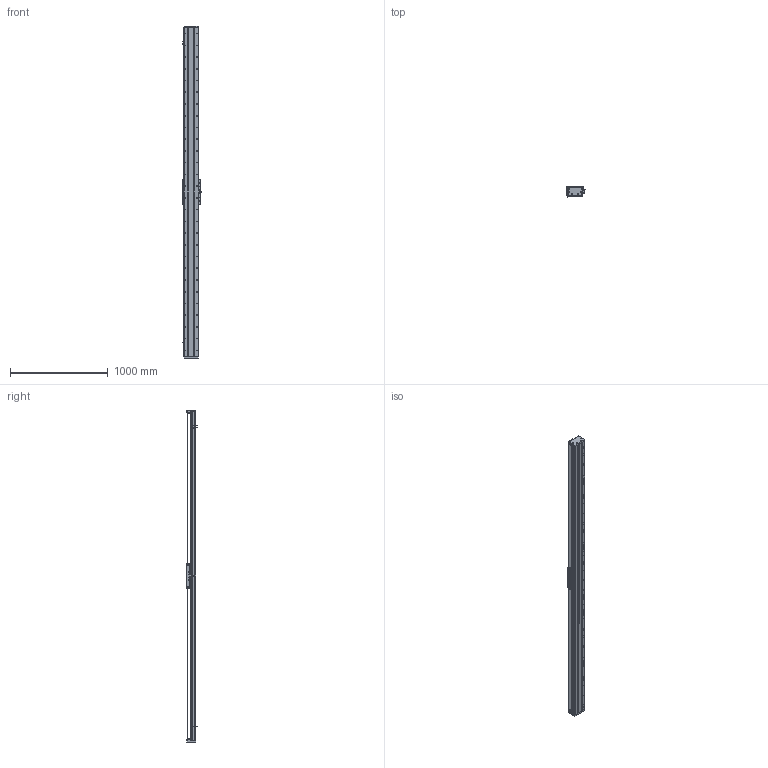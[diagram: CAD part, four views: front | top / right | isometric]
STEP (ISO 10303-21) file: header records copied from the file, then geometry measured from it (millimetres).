
FILE_DESCRIPTION (( 'STEP AP203' ), '1' );
FILE_NAME ('DA-C145-C3-T3060-C010-0.2 眻盄萇儂.STEP', '2025-08-14T01:36:48', ( '' ), ( '' ), 'SwSTEP 2.0', 'SolidWorks 2019', '' );
FILE_SCHEMA (( 'CONFIG_CONTROL_DESIGN' ));
Length unit declared in the file: millimetre
Products named in the file (32): 复件 DA95-MFP-01 密封片^CU145-W 滚珠滑台; 葩璃 XD-U-02L 棠掑喜^DA-C145-C3-T-C010-0.2; TAY01-M8; IU-CU145-L 菁釱絳寢; 复件 内六角平端紧定螺钉 GB.T77-2000 M5×10^CU145-W 滚珠滑台; 复件 DA145-DG 钢带端盖^复件 CU145 钢带组件_DA-C145-C3-T-C010-0.2; DA-C145-C3-T3060-C010-0.2 眻盄萇儂; 葩璃 CU145 詩湍郪璃^DA-C145-C3-T-C010-0.2; 复件 DA145-C3-DK-00 挡块^CU145-W 滚珠滑台; 复件 半圆头内六角螺钉 M3×6^CU145-W 滚珠滑台; 复件 DA145-GYP-00 光电感应片^DA-C145-C3-T-C010-0.2; 复件 DA145-C3-YB-B-00 压板B^CU145-W 滚珠滑台; 复件 纯铜油杯 6x6mm^CU145-W 滚珠滑台; 复件 DA145-C3-YB-A-00 压板A^CU145-W 滚珠滑台; 复件 DA95-HK-GT-00 滑块钢轨^CU145-W-00 一体化滑动台板; 复件 DA146 钢带垫块^复件 CU145 钢带组件_DA-C145-C3-T-C010-0.2; 复件 DA95-DB-00  挡板^CU145-W 滚珠滑台; 复件 DA145 钢带^复件 CU145 钢带组件_DA-C145-C3-T-C010-0.2; 葩璃 PM-T45^DA-C145-C3-T-C010-0.2; 葩璃 CKM03-W060-C1C2-TP-0.2^DA-C145-C3-T-C010-0.2; CU145-W 幗紩賑怢; 葩璃 DA145-C3-DP-B-00 菜えB^CU145-W 幗紩賑怢; 葩璃 DMA-010-0.2 黍杅芛^DA-C145-C3-T-C010-0.2; 复件 DA146 钢带拉块^复件 CU145 钢带组件_DA-C145-C3-T-C010-0.2; 葩璃 CKMA01-W060-TRL^DA-C145-C3-T-C010-0.2; 66245-CU145-HT-W-00 賑雄怢啣(3D芞祧)(00); 葩璃 DA95-GT-T-00^IU-CU145-L 菁釱絳寢; 葩璃 DA95-HXJ-00 遣喳砎蝶^DA-C145-C3-T-C010-0.2; 葩璃 DA145-C3-DP-A-00 菜えA^CU145-W 幗紩賑怢; IU-CU145-L-00 菁釱(L3360); CU145-W-00 珨极趙賑雄怢啣; 葩璃 鞠褒情蹟譫 M3^DA-C145-C3-T-C010-0.2
Assembly tree (103 placements, depth 4):
  DA-C145-C3-T3060-C010-0.2 眻盄萇儂
    IU-CU145-L 菁釱絳寢
      IU-CU145-L-00 菁釱(L3360)
      葩璃 DA95-GT-T-00^IU-CU145-L 菁釱絳寢  x4
    葩璃 CU145 詩湍郪璃^DA-C145-C3-T-C010-0.2
      复件 DA145-DG 钢带端盖^复件 CU145 钢带组件_DA-C145-C3-T-C010-0.2  x2
      复件 DA146 钢带拉块^复件 CU145 钢带组件_DA-C145-C3-T-C010-0.2  x2
      复件 DA146 钢带垫块^复件 CU145 钢带组件_DA-C145-C3-T-C010-0.2  x2
      复件 DA145 钢带^复件 CU145 钢带组件_DA-C145-C3-T-C010-0.2
    CU145-W 幗紩賑怢
      CU145-W-00 珨极趙賑雄怢啣
        66245-CU145-HT-W-00 賑雄怢啣(3D芞祧)(00)
        复件 DA95-HK-GT-00 滑块钢轨^CU145-W-00 一体化滑动台板  x8
      复件 DA95-MFP-01 密封片^CU145-W 滚珠滑台  x8
      复件 DA95-DB-00  挡板^CU145-W 滚珠滑台  x8
      复件 内六角平端紧定螺钉 GB.T77-2000 M5×10^CU145-W 滚珠滑台  x4
      复件 纯铜油杯 6x6mm^CU145-W 滚珠滑台  x4
      复件 半圆头内六角螺钉 M3×6^CU145-W 滚珠滑台  x16
      复件 DA145-C3-DK-00 挡块^CU145-W 滚珠滑台  x4
      葩璃 DA145-C3-DP-B-00 菜えB^CU145-W 幗紩賑怢  x2
      复件 DA145-C3-YB-B-00 压板B^CU145-W 滚珠滑台  x2
      葩璃 DA145-C3-DP-A-00 菜えA^CU145-W 幗紩賑怢  x3
      复件 DA145-C3-YB-A-00 压板A^CU145-W 滚珠滑台  x3
      TAY01-M8  x4
    葩璃 CKMA01-W060-TRL^DA-C145-C3-T-C010-0.2
    葩璃 PM-T45^DA-C145-C3-T-C010-0.2  x3
    葩璃 XD-U-02L 棠掑喜^DA-C145-C3-T-C010-0.2
    葩璃 DA95-HXJ-00 遣喳砎蝶^DA-C145-C3-T-C010-0.2  x4
    复件 DA145-GYP-00 光电感应片^DA-C145-C3-T-C010-0.2
    葩璃 DMA-010-0.2 黍杅芛^DA-C145-C3-T-C010-0.2
    葩璃 CKM03-W060-C1C2-TP-0.2^DA-C145-C3-T-C010-0.2
    葩璃 鞠褒情蹟譫 M3^DA-C145-C3-T-C010-0.2  x8
Bounding box: 203.5 x 108.45 x 3396 mm (x, y, z)
Volume: 15360766 mm3; surface area: 5212460.3 mm2
Topology: 99 solids, 131 shells, 4951 faces, 14528 edges, 9150 vertices
Faces by surface type: cylinder 2575, plane 1608, cone 690, torus 74, sphere 4
Entity records: 145958 total; most frequent: CARTESIAN_POINT 45618, ORIENTED_EDGE 20576, DIRECTION 19143, EDGE_CURVE 10288, AXIS2_PLACEMENT_3D 7210, VERTEX_POINT 6689, LINE 4723, VECTOR 4723
